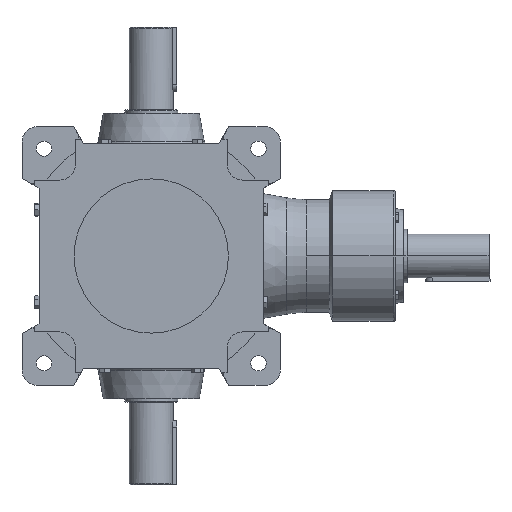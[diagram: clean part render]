
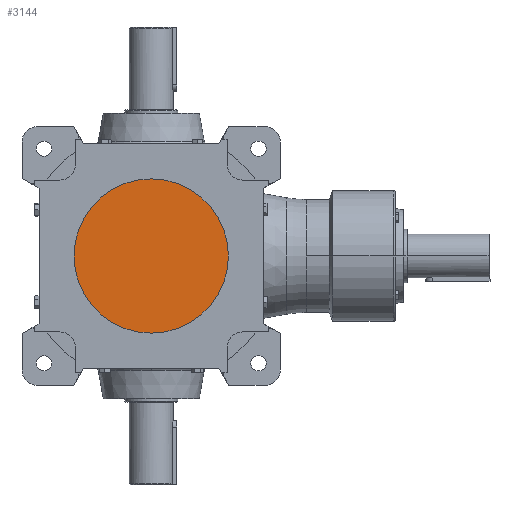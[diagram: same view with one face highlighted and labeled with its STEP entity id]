
A CAD part, front view. The second image highlights one B-rep face of the part: STEP entity #3144.
In plain terms, the highlighted planar face has unit normal (0, -1, 0).
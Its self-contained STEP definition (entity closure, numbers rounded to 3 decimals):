
#879 = CARTESIAN_POINT ( 'NONE',  ( 0., -98.9, -70.145 ) ) ;
#1088 = CIRCLE ( 'NONE', #5908, 70.145 ) ;
#1145 = CIRCLE ( 'NONE', #16195, 70.145 ) ;
#1192 = DIRECTION ( 'NONE',  ( 0., 0., -1. ) ) ;
#1219 = DIRECTION ( 'NONE',  ( 0., -1., 0. ) ) ;
#1241 = CARTESIAN_POINT ( 'NONE',  ( 0., -98.9, 0. ) ) ;
#1621 = EDGE_CURVE ( 'NONE', #14632, #16495, #1088, .T. ) ;
#1785 = AXIS2_PLACEMENT_3D ( 'NONE', #8651, #18395, #10152 ) ;
#3144 = ADVANCED_FACE ( 'NONE', ( #15176 ), #17051, .T. ) ;
#3585 = CARTESIAN_POINT ( 'NONE',  ( 0., -98.9, 70.145 ) ) ;
#5908 = AXIS2_PLACEMENT_3D ( 'NONE', #1241, #1219, #1192 ) ;
#6805 = ORIENTED_EDGE ( 'NONE', *, *, #1621, .T. ) ;
#7360 = EDGE_LOOP ( 'NONE', ( #6805, #14365 ) ) ;
#8651 = CARTESIAN_POINT ( 'NONE',  ( 0., -98.9, 0. ) ) ;
#8775 = DIRECTION ( 'NONE',  ( 0., -1., 0. ) ) ;
#10152 = DIRECTION ( 'NONE',  ( 0., 0., -1. ) ) ;
#10951 = EDGE_CURVE ( 'NONE', #16495, #14632, #1145, .T. ) ;
#14365 = ORIENTED_EDGE ( 'NONE', *, *, #10951, .T. ) ;
#14632 = VERTEX_POINT ( 'NONE', #879 ) ;
#15176 = FACE_OUTER_BOUND ( 'NONE', #7360, .T. ) ;
#16195 = AXIS2_PLACEMENT_3D ( 'NONE', #17156, #8775, #18513 ) ;
#16495 = VERTEX_POINT ( 'NONE', #3585 ) ;
#17051 = PLANE ( 'NONE',  #1785 ) ;
#17156 = CARTESIAN_POINT ( 'NONE',  ( 0., -98.9, 0. ) ) ;
#18395 = DIRECTION ( 'NONE',  ( 0., -1., 0. ) ) ;
#18513 = DIRECTION ( 'NONE',  ( 0., 0., -1. ) ) ;
